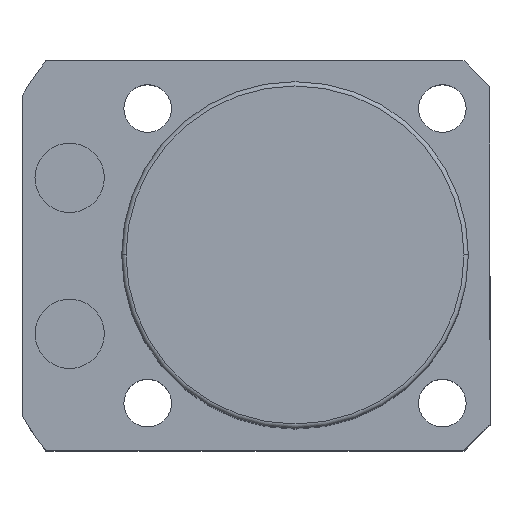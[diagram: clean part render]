
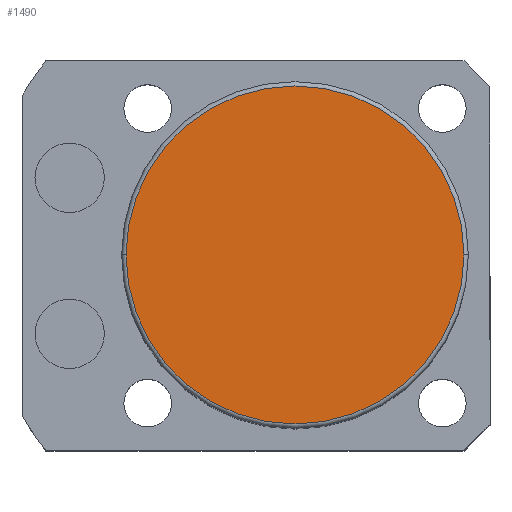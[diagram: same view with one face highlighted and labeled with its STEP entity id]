
A CAD part, top view. The second image highlights one B-rep face of the part: STEP entity #1490.
In plain terms, the highlighted planar face has unit normal (0, 0, 1).
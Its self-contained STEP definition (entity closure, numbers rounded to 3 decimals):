
#64 = CIRCLE ( 'NONE', #1895, 19.5 ) ;
#92 = EDGE_CURVE ( 'NONE', #2038, #242, #64, .T. ) ;
#121 = CARTESIAN_POINT ( 'NONE',  ( -19.5, 0., 68.5 ) ) ;
#158 = DIRECTION ( 'NONE',  ( 0., 0., 1. ) ) ;
#242 = VERTEX_POINT ( 'NONE', #284 ) ;
#284 = CARTESIAN_POINT ( 'NONE',  ( 19.5, 0., 68.5 ) ) ;
#327 = ORIENTED_EDGE ( 'NONE', *, *, #2141, .T. ) ;
#370 = PLANE ( 'NONE',  #373 ) ;
#373 = AXIS2_PLACEMENT_3D ( 'NONE', #1857, #1647, #1638 ) ;
#424 = ORIENTED_EDGE ( 'NONE', *, *, #92, .T. ) ;
#540 = DIRECTION ( 'NONE',  ( 1., 0., 0. ) ) ;
#825 = EDGE_LOOP ( 'NONE', ( #327, #424 ) ) ;
#1126 = DIRECTION ( 'NONE',  ( 1., 0., 0. ) ) ;
#1470 = CARTESIAN_POINT ( 'NONE',  ( 0., 0., 68.5 ) ) ;
#1490 = ADVANCED_FACE ( 'NONE', ( #2226 ), #370, .T. ) ;
#1509 = DIRECTION ( 'NONE',  ( 0., 0., 1. ) ) ;
#1638 = DIRECTION ( 'NONE',  ( 1., 0., 0. ) ) ;
#1645 = AXIS2_PLACEMENT_3D ( 'NONE', #1470, #158, #540 ) ;
#1647 = DIRECTION ( 'NONE',  ( 0., 0., 1. ) ) ;
#1789 = CIRCLE ( 'NONE', #1645, 19.5 ) ;
#1857 = CARTESIAN_POINT ( 'NONE',  ( 0., 0., 68.5 ) ) ;
#1895 = AXIS2_PLACEMENT_3D ( 'NONE', #2233, #1509, #1126 ) ;
#2038 = VERTEX_POINT ( 'NONE', #121 ) ;
#2141 = EDGE_CURVE ( 'NONE', #242, #2038, #1789, .T. ) ;
#2226 = FACE_OUTER_BOUND ( 'NONE', #825, .T. ) ;
#2233 = CARTESIAN_POINT ( 'NONE',  ( 0., 0., 68.5 ) ) ;
